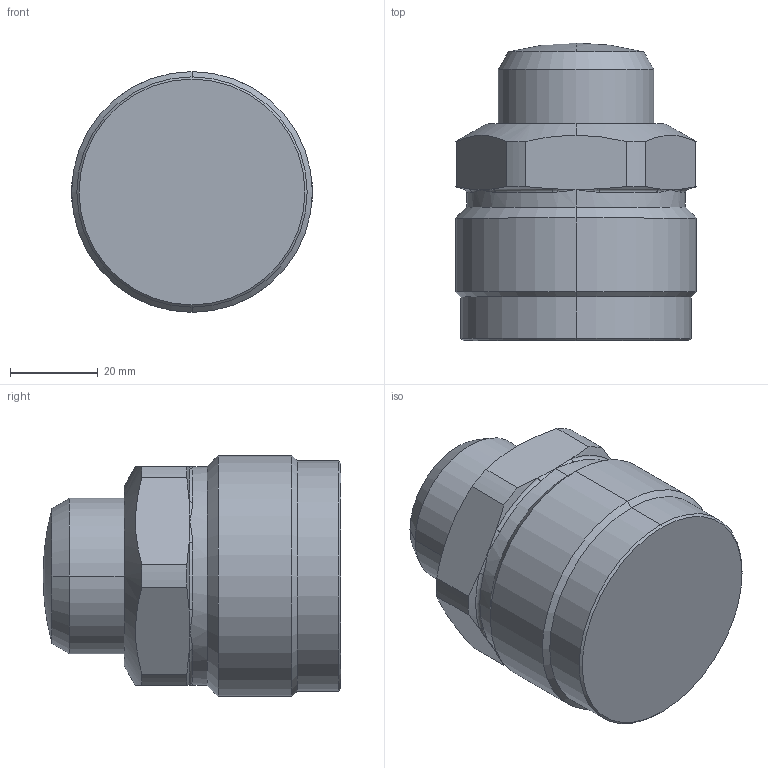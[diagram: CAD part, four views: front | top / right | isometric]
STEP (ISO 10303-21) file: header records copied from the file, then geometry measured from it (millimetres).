
FILE_DESCRIPTION((' '),'2;1');
FILE_NAME( 'CMC25-12R.x_t.stp', '2024-08-27T13:58:40', (' '), ('--- Datakit www.datakit.com---'), ' Datakit CrossCadWare V2024.1 Dec 21 2023', 'Mastercam 2025', ' ');
FILE_SCHEMA(('AUTOMOTIVE_DESIGN { 1 0 10303 214 1 1 1 1 }'));
Length unit declared in the file: millimetre
Products named in the file (1): CMC25-12R
Bounding box: 55 x 68 x 55 mm (x, y, z)
Volume: 113024 mm3; surface area: 17504.7 mm2
Topology: 2 solids, 2 shells, 62 faces, 155 edges, 84 vertices
Faces by surface type: cylinder 16, cone 16, bspline 12, plane 10, torus 6, sphere 2
Entity records: 3813 total; most frequent: CARTESIAN_POINT 2452, ORIENTED_EDGE 282, DIRECTION 264, EDGE_CURVE 141, AXIS2_PLACEMENT_3D 116, VERTEX_POINT 84, CIRCLE 65, EDGE_LOOP 63
